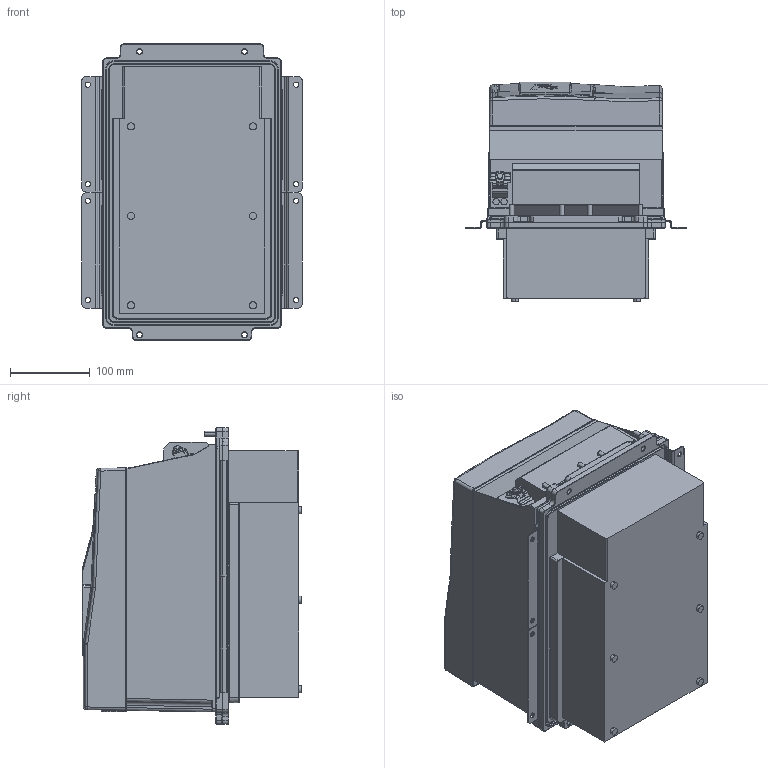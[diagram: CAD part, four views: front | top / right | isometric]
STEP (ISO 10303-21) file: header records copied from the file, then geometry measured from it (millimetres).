
FILE_DESCRIPTION (( 'STEP AP214' ), '1' );
FILE_NAME ('F6-4TR5-A010.STEP', '2020-12-08T13:04:16', ( '' ), ( '' ), 'SwSTEP 2.0', 'SolidWorks 2019', '' );
FILE_SCHEMA (( 'AUTOMOTIVE_DESIGN' ));
Length unit declared in the file: millimetre
Products named in the file (11): 10058448_000; 10058413_000; 10061644_000_Deckel (Kundenmodell); 10059765_000; 10035735_000_Kundenmodell; F6-4TR5-A010; 10032600_000_Kundenmodell; 10059764_000_Blindabdeckung (Kundenmodell); 10045811_000_Leistungsteil TR5 (Kundenmodell); 10061645_000; 10061787_000
Assembly tree (10 placements, depth 4):
  F6-4TR5-A010
    10045811_000_Leistungsteil TR5 (Kundenmodell)
      10061787_000
    10032600_000_Kundenmodell
      10061644_000_Deckel (Kundenmodell)
        10061645_000
      10058448_000
    10035735_000_Kundenmodell
      10059764_000_Blindabdeckung (Kundenmodell)
        10059765_000
      10058413_000
Bounding box: 277 x 276.2 x 373 mm (x, y, z)
Volume: 17474318.4 mm3; surface area: 899018.9 mm2
Topology: 14 solids, 31 shells, 2467 faces, 6333 edges, 3948 vertices
Faces by surface type: plane 1014, cylinder 638, bspline 517, torus 159, cone 99, sphere 40
Entity records: 95902 total; most frequent: CARTESIAN_POINT 39001, ORIENTED_EDGE 12548, DIRECTION 10487, EDGE_CURVE 6274, VERTEX_POINT 3946, AXIS2_PLACEMENT_3D 3523, LINE 3441, VECTOR 3441
